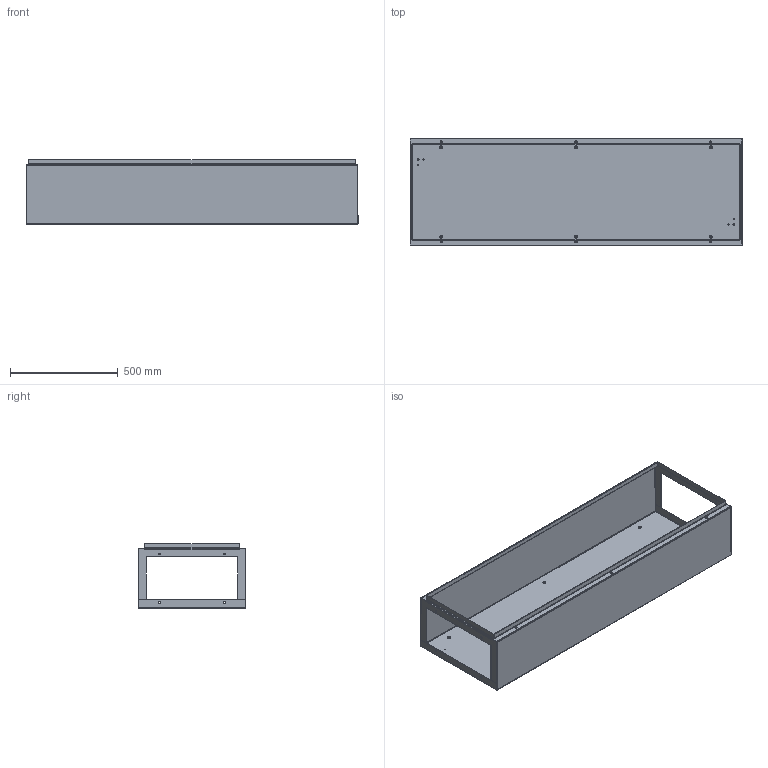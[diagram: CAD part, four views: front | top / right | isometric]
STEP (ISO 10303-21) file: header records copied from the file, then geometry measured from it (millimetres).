
FILE_DESCRIPTION (( 'STEP AP203' ), '1' );
FILE_NAME ('pce165300.STEP', '2013-04-16T05:35:37', ( '' ), ( '' ), 'SwSTEP 2.0', 'SolidWorks 2010', '' );
FILE_SCHEMA (( 'CONFIG_CONTROL_DESIGN' ));
Length unit declared in the file: inch
Products named in the file (4): pce165300; 87548347; 87553417; 87553431
Assembly tree (4 placements, depth 3):
  pce165300
    87548347
      87553417
      87553431  x2
Bounding box: 1539.06 x 500.02 x 301.13 mm (x, y, z)
Volume: 3447794.5 mm3; surface area: 3788786.4 mm2
Topology: 3 solids, 3 shells, 360 faces, 816 edges, 480 vertices
Faces by surface type: plane 176, torus 72, cylinder 68, cone 36, bspline 8
Entity records: 10162 total; most frequent: CARTESIAN_POINT 2246, DIRECTION 1660, ORIENTED_EDGE 1468, EDGE_CURVE 734, AXIS2_PLACEMENT_3D 628, VERTEX_POINT 430, LINE 404, VECTOR 404
